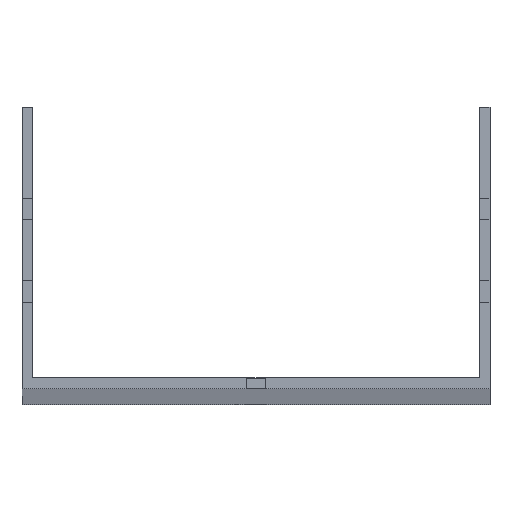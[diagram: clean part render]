
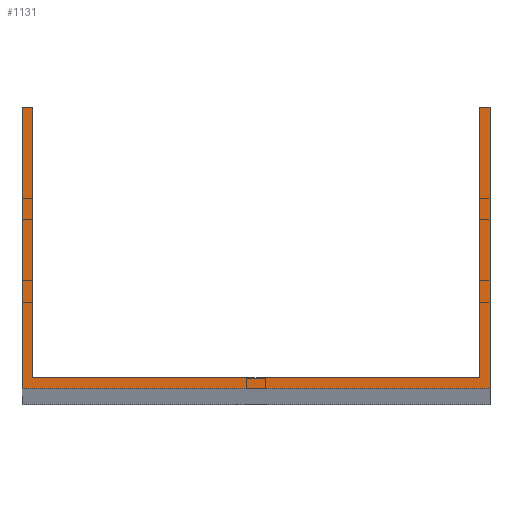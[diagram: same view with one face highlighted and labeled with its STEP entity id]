
A CAD part, top view. The second image highlights one B-rep face of the part: STEP entity #1131.
In plain terms, the highlighted planar face has unit normal (0, 0, 1).
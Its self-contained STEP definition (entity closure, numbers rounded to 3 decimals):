
#40 = VERTEX_POINT ( 'NONE', #643 ) ;
#55 = CARTESIAN_POINT ( 'NONE',  ( -73.5, 3.5, 1500. ) ) ;
#72 = CARTESIAN_POINT ( 'NONE',  ( 77., 92.5, 1500. ) ) ;
#73 = DIRECTION ( 'NONE',  ( -1., 0., 0. ) ) ;
#85 = VECTOR ( 'NONE', #73, 1000. ) ;
#88 = DIRECTION ( 'NONE',  ( 0., 1., 0. ) ) ;
#93 = DIRECTION ( 'NONE',  ( 0., 1., 0. ) ) ;
#128 = FACE_OUTER_BOUND ( 'NONE', #475, .T. ) ;
#198 = ORIENTED_EDGE ( 'NONE', *, *, #1481, .F. ) ;
#219 = LINE ( 'NONE', #1259, #607 ) ;
#224 = DIRECTION ( 'NONE',  ( 0., -1., 0. ) ) ;
#241 = CARTESIAN_POINT ( 'NONE',  ( 77., 0., 1500. ) ) ;
#245 = ORIENTED_EDGE ( 'NONE', *, *, #1387, .F. ) ;
#300 = VERTEX_POINT ( 'NONE', #1656 ) ;
#339 = VERTEX_POINT ( 'NONE', #241 ) ;
#360 = VECTOR ( 'NONE', #651, 1000. ) ;
#366 = VECTOR ( 'NONE', #88, 1000. ) ;
#371 = DIRECTION ( 'NONE',  ( 1., 0., 0. ) ) ;
#475 = EDGE_LOOP ( 'NONE', ( #1626, #1344, #748, #759, #960, #809, #198, #245 ) ) ;
#482 = CARTESIAN_POINT ( 'NONE',  ( -77., 92.5, 1500. ) ) ;
#504 = VERTEX_POINT ( 'NONE', #1490 ) ;
#512 = LINE ( 'NONE', #1549, #584 ) ;
#535 = CARTESIAN_POINT ( 'NONE',  ( -73.5, 92.5, 1500. ) ) ;
#584 = VECTOR ( 'NONE', #371, 1000. ) ;
#597 = VERTEX_POINT ( 'NONE', #988 ) ;
#607 = VECTOR ( 'NONE', #93, 1000. ) ;
#613 = LINE ( 'NONE', #1646, #1660 ) ;
#643 = CARTESIAN_POINT ( 'NONE',  ( 77., 92.5, 1500. ) ) ;
#651 = DIRECTION ( 'NONE',  ( 0., -1., 0. ) ) ;
#661 = VECTOR ( 'NONE', #224, 1000. ) ;
#741 = CARTESIAN_POINT ( 'NONE',  ( -77., 0., 1500. ) ) ;
#748 = ORIENTED_EDGE ( 'NONE', *, *, #1622, .T. ) ;
#755 = LINE ( 'NONE', #1393, #661 ) ;
#759 = ORIENTED_EDGE ( 'NONE', *, *, #1282, .T. ) ;
#774 = EDGE_CURVE ( 'NONE', #300, #844, #902, .T. ) ;
#809 = ORIENTED_EDGE ( 'NONE', *, *, #1041, .T. ) ;
#844 = VERTEX_POINT ( 'NONE', #55 ) ;
#885 = LINE ( 'NONE', #72, #366 ) ;
#902 = LINE ( 'NONE', #535, #360 ) ;
#908 = CARTESIAN_POINT ( 'NONE',  ( 0., 0., 1500. ) ) ;
#960 = ORIENTED_EDGE ( 'NONE', *, *, #1632, .T. ) ;
#988 = CARTESIAN_POINT ( 'NONE',  ( 73.5, 3.5, 1500. ) ) ;
#1041 = EDGE_CURVE ( 'NONE', #40, #1097, #1642, .T. ) ;
#1097 = VERTEX_POINT ( 'NONE', #1527 ) ;
#1131 = ADVANCED_FACE ( 'NONE', ( #128 ), #1552, .T. ) ;
#1177 = DIRECTION ( 'NONE',  ( 1., 0., 0. ) ) ;
#1199 = LINE ( 'NONE', #1586, #1397 ) ;
#1230 = DIRECTION ( 'NONE',  ( -1., 0., 0. ) ) ;
#1259 = CARTESIAN_POINT ( 'NONE',  ( 73.5, 92.5, 1500. ) ) ;
#1282 = EDGE_CURVE ( 'NONE', #1448, #339, #1199, .T. ) ;
#1344 = ORIENTED_EDGE ( 'NONE', *, *, #1492, .T. ) ;
#1387 = EDGE_CURVE ( 'NONE', #844, #597, #512, .T. ) ;
#1393 = CARTESIAN_POINT ( 'NONE',  ( -77., 92.5, 1500. ) ) ;
#1397 = VECTOR ( 'NONE', #1575, 1000. ) ;
#1413 = DIRECTION ( 'NONE',  ( 0., 0., 1. ) ) ;
#1448 = VERTEX_POINT ( 'NONE', #741 ) ;
#1481 = EDGE_CURVE ( 'NONE', #597, #1097, #219, .T. ) ;
#1490 = CARTESIAN_POINT ( 'NONE',  ( -77., 92.5, 1500. ) ) ;
#1492 = EDGE_CURVE ( 'NONE', #300, #504, #613, .T. ) ;
#1527 = CARTESIAN_POINT ( 'NONE',  ( 73.5, 92.5, 1500. ) ) ;
#1549 = CARTESIAN_POINT ( 'NONE',  ( -77., 3.5, 1500. ) ) ;
#1552 = PLANE ( 'NONE',  #1558 ) ;
#1558 = AXIS2_PLACEMENT_3D ( 'NONE', #908, #1413, #1177 ) ;
#1575 = DIRECTION ( 'NONE',  ( 1., 0., 0. ) ) ;
#1586 = CARTESIAN_POINT ( 'NONE',  ( -77., 0., 1500. ) ) ;
#1622 = EDGE_CURVE ( 'NONE', #504, #1448, #755, .T. ) ;
#1626 = ORIENTED_EDGE ( 'NONE', *, *, #774, .F. ) ;
#1632 = EDGE_CURVE ( 'NONE', #339, #40, #885, .T. ) ;
#1642 = LINE ( 'NONE', #482, #85 ) ;
#1646 = CARTESIAN_POINT ( 'NONE',  ( -77., 92.5, 1500. ) ) ;
#1656 = CARTESIAN_POINT ( 'NONE',  ( -73.5, 92.5, 1500. ) ) ;
#1660 = VECTOR ( 'NONE', #1230, 1000. ) ;
